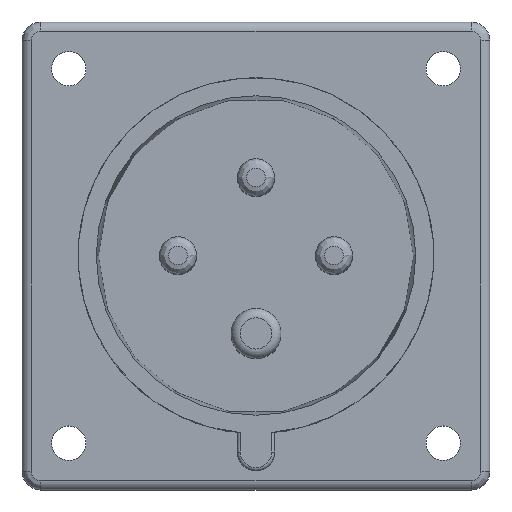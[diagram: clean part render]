
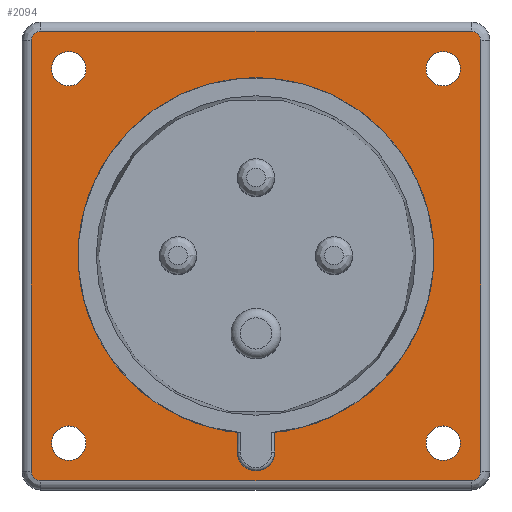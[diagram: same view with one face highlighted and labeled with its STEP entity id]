
A CAD part, top view. The second image highlights one B-rep face of the part: STEP entity #2094.
In plain terms, the highlighted planar face has unit normal (0, 0, 1).
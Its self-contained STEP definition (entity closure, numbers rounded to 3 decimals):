
#2094 = ADVANCED_FACE('',(#2095,#2165,#2185,#2205,#2225,#2245),#2265,.T.
  );
#2095 = FACE_BOUND('',#2096,.T.);
#2096 = EDGE_LOOP('',(#2097,#2107,#2116,#2124,#2133,#2141,#2150,#2158));
#2097 = ORIENTED_EDGE('',*,*,#2098,.T.);
#2098 = EDGE_CURVE('',#2099,#2101,#2103,.T.);
#2099 = VERTEX_POINT('',#2100);
#2100 = CARTESIAN_POINT('',(-36.,34.5,5.));
#2101 = VERTEX_POINT('',#2102);
#2102 = CARTESIAN_POINT('',(-36.,-34.5,5.));
#2103 = LINE('',#2104,#2105);
#2104 = CARTESIAN_POINT('',(-36.,34.5,5.));
#2105 = VECTOR('',#2106,1.);
#2106 = DIRECTION('',(0.,-1.,0.));
#2107 = ORIENTED_EDGE('',*,*,#2108,.T.);
#2108 = EDGE_CURVE('',#2101,#2109,#2111,.T.);
#2109 = VERTEX_POINT('',#2110);
#2110 = CARTESIAN_POINT('',(-34.5,-36.,5.));
#2111 = CIRCLE('',#2112,1.5);
#2112 = AXIS2_PLACEMENT_3D('',#2113,#2114,#2115);
#2113 = CARTESIAN_POINT('',(-34.5,-34.5,5.));
#2114 = DIRECTION('',(0.,0.,1.));
#2115 = DIRECTION('',(-1.,0.,0.));
#2116 = ORIENTED_EDGE('',*,*,#2117,.T.);
#2117 = EDGE_CURVE('',#2109,#2118,#2120,.T.);
#2118 = VERTEX_POINT('',#2119);
#2119 = CARTESIAN_POINT('',(34.5,-36.,5.));
#2120 = LINE('',#2121,#2122);
#2121 = CARTESIAN_POINT('',(-34.5,-36.,5.));
#2122 = VECTOR('',#2123,1.);
#2123 = DIRECTION('',(1.,0.,0.));
#2124 = ORIENTED_EDGE('',*,*,#2125,.T.);
#2125 = EDGE_CURVE('',#2118,#2126,#2128,.T.);
#2126 = VERTEX_POINT('',#2127);
#2127 = CARTESIAN_POINT('',(36.,-34.5,5.));
#2128 = CIRCLE('',#2129,1.5);
#2129 = AXIS2_PLACEMENT_3D('',#2130,#2131,#2132);
#2130 = CARTESIAN_POINT('',(34.5,-34.5,5.));
#2131 = DIRECTION('',(0.,0.,1.));
#2132 = DIRECTION('',(0.,-1.,0.));
#2133 = ORIENTED_EDGE('',*,*,#2134,.T.);
#2134 = EDGE_CURVE('',#2126,#2135,#2137,.T.);
#2135 = VERTEX_POINT('',#2136);
#2136 = CARTESIAN_POINT('',(36.,34.5,5.));
#2137 = LINE('',#2138,#2139);
#2138 = CARTESIAN_POINT('',(36.,-34.5,5.));
#2139 = VECTOR('',#2140,1.);
#2140 = DIRECTION('',(0.,1.,0.));
#2141 = ORIENTED_EDGE('',*,*,#2142,.T.);
#2142 = EDGE_CURVE('',#2135,#2143,#2145,.T.);
#2143 = VERTEX_POINT('',#2144);
#2144 = CARTESIAN_POINT('',(34.5,36.,5.));
#2145 = CIRCLE('',#2146,1.5);
#2146 = AXIS2_PLACEMENT_3D('',#2147,#2148,#2149);
#2147 = CARTESIAN_POINT('',(34.5,34.5,5.));
#2148 = DIRECTION('',(0.,0.,1.));
#2149 = DIRECTION('',(1.,0.,-0.));
#2150 = ORIENTED_EDGE('',*,*,#2151,.T.);
#2151 = EDGE_CURVE('',#2143,#2152,#2154,.T.);
#2152 = VERTEX_POINT('',#2153);
#2153 = CARTESIAN_POINT('',(-34.5,36.,5.));
#2154 = LINE('',#2155,#2156);
#2155 = CARTESIAN_POINT('',(34.5,36.,5.));
#2156 = VECTOR('',#2157,1.);
#2157 = DIRECTION('',(-1.,0.,0.));
#2158 = ORIENTED_EDGE('',*,*,#2159,.T.);
#2159 = EDGE_CURVE('',#2152,#2099,#2160,.T.);
#2160 = CIRCLE('',#2161,1.5);
#2161 = AXIS2_PLACEMENT_3D('',#2162,#2163,#2164);
#2162 = CARTESIAN_POINT('',(-34.5,34.5,5.));
#2163 = DIRECTION('',(0.,-0.,1.));
#2164 = DIRECTION('',(0.,1.,0.));
#2165 = FACE_BOUND('',#2166,.T.);
#2166 = EDGE_LOOP('',(#2167,#2178));
#2167 = ORIENTED_EDGE('',*,*,#2168,.F.);
#2168 = EDGE_CURVE('',#2169,#2171,#2173,.T.);
#2169 = VERTEX_POINT('',#2170);
#2170 = CARTESIAN_POINT('',(27.25,30.,5.));
#2171 = VERTEX_POINT('',#2172);
#2172 = CARTESIAN_POINT('',(32.75,30.,5.));
#2173 = CIRCLE('',#2174,2.75);
#2174 = AXIS2_PLACEMENT_3D('',#2175,#2176,#2177);
#2175 = CARTESIAN_POINT('',(30.,30.,5.));
#2176 = DIRECTION('',(0.,0.,1.));
#2177 = DIRECTION('',(-1.,0.,0.));
#2178 = ORIENTED_EDGE('',*,*,#2179,.F.);
#2179 = EDGE_CURVE('',#2171,#2169,#2180,.T.);
#2180 = CIRCLE('',#2181,2.75);
#2181 = AXIS2_PLACEMENT_3D('',#2182,#2183,#2184);
#2182 = CARTESIAN_POINT('',(30.,30.,5.));
#2183 = DIRECTION('',(0.,0.,1.));
#2184 = DIRECTION('',(1.,0.,-0.));
#2185 = FACE_BOUND('',#2186,.T.);
#2186 = EDGE_LOOP('',(#2187,#2198));
#2187 = ORIENTED_EDGE('',*,*,#2188,.F.);
#2188 = EDGE_CURVE('',#2189,#2191,#2193,.T.);
#2189 = VERTEX_POINT('',#2190);
#2190 = CARTESIAN_POINT('',(-32.75,30.,5.));
#2191 = VERTEX_POINT('',#2192);
#2192 = CARTESIAN_POINT('',(-27.25,30.,5.));
#2193 = CIRCLE('',#2194,2.75);
#2194 = AXIS2_PLACEMENT_3D('',#2195,#2196,#2197);
#2195 = CARTESIAN_POINT('',(-30.,30.,5.));
#2196 = DIRECTION('',(0.,0.,1.));
#2197 = DIRECTION('',(-1.,0.,0.));
#2198 = ORIENTED_EDGE('',*,*,#2199,.F.);
#2199 = EDGE_CURVE('',#2191,#2189,#2200,.T.);
#2200 = CIRCLE('',#2201,2.75);
#2201 = AXIS2_PLACEMENT_3D('',#2202,#2203,#2204);
#2202 = CARTESIAN_POINT('',(-30.,30.,5.));
#2203 = DIRECTION('',(0.,0.,1.));
#2204 = DIRECTION('',(1.,0.,-0.));
#2205 = FACE_BOUND('',#2206,.T.);
#2206 = EDGE_LOOP('',(#2207,#2218));
#2207 = ORIENTED_EDGE('',*,*,#2208,.F.);
#2208 = EDGE_CURVE('',#2209,#2211,#2213,.T.);
#2209 = VERTEX_POINT('',#2210);
#2210 = CARTESIAN_POINT('',(27.25,-30.,5.));
#2211 = VERTEX_POINT('',#2212);
#2212 = CARTESIAN_POINT('',(32.75,-30.,5.));
#2213 = CIRCLE('',#2214,2.75);
#2214 = AXIS2_PLACEMENT_3D('',#2215,#2216,#2217);
#2215 = CARTESIAN_POINT('',(30.,-30.,5.));
#2216 = DIRECTION('',(0.,0.,1.));
#2217 = DIRECTION('',(-1.,0.,0.));
#2218 = ORIENTED_EDGE('',*,*,#2219,.F.);
#2219 = EDGE_CURVE('',#2211,#2209,#2220,.T.);
#2220 = CIRCLE('',#2221,2.75);
#2221 = AXIS2_PLACEMENT_3D('',#2222,#2223,#2224);
#2222 = CARTESIAN_POINT('',(30.,-30.,5.));
#2223 = DIRECTION('',(0.,0.,1.));
#2224 = DIRECTION('',(1.,0.,-0.));
#2225 = FACE_BOUND('',#2226,.T.);
#2226 = EDGE_LOOP('',(#2227,#2238));
#2227 = ORIENTED_EDGE('',*,*,#2228,.F.);
#2228 = EDGE_CURVE('',#2229,#2231,#2233,.T.);
#2229 = VERTEX_POINT('',#2230);
#2230 = CARTESIAN_POINT('',(-32.75,-30.,5.));
#2231 = VERTEX_POINT('',#2232);
#2232 = CARTESIAN_POINT('',(-27.25,-30.,5.));
#2233 = CIRCLE('',#2234,2.75);
#2234 = AXIS2_PLACEMENT_3D('',#2235,#2236,#2237);
#2235 = CARTESIAN_POINT('',(-30.,-30.,5.));
#2236 = DIRECTION('',(0.,0.,1.));
#2237 = DIRECTION('',(-1.,0.,0.));
#2238 = ORIENTED_EDGE('',*,*,#2239,.F.);
#2239 = EDGE_CURVE('',#2231,#2229,#2240,.T.);
#2240 = CIRCLE('',#2241,2.75);
#2241 = AXIS2_PLACEMENT_3D('',#2242,#2243,#2244);
#2242 = CARTESIAN_POINT('',(-30.,-30.,5.));
#2243 = DIRECTION('',(0.,0.,1.));
#2244 = DIRECTION('',(1.,0.,-0.));
#2245 = FACE_BOUND('',#2246,.T.);
#2246 = EDGE_LOOP('',(#2247,#2258));
#2247 = ORIENTED_EDGE('',*,*,#2248,.F.);
#2248 = EDGE_CURVE('',#2249,#2251,#2253,.T.);
#2249 = VERTEX_POINT('',#2250);
#2250 = CARTESIAN_POINT('',(-28.5,0.,5.));
#2251 = VERTEX_POINT('',#2252);
#2252 = CARTESIAN_POINT('',(28.5,0.,5.));
#2253 = CIRCLE('',#2254,28.5);
#2254 = AXIS2_PLACEMENT_3D('',#2255,#2256,#2257);
#2255 = CARTESIAN_POINT('',(0.,0.,5.));
#2256 = DIRECTION('',(0.,0.,1.));
#2257 = DIRECTION('',(-1.,0.,0.));
#2258 = ORIENTED_EDGE('',*,*,#2259,.F.);
#2259 = EDGE_CURVE('',#2251,#2249,#2260,.T.);
#2260 = CIRCLE('',#2261,28.5);
#2261 = AXIS2_PLACEMENT_3D('',#2262,#2263,#2264);
#2262 = CARTESIAN_POINT('',(0.,0.,5.));
#2263 = DIRECTION('',(0.,0.,1.));
#2264 = DIRECTION('',(1.,0.,-0.));
#2265 = PLANE('',#2266);
#2266 = AXIS2_PLACEMENT_3D('',#2267,#2268,#2269);
#2267 = CARTESIAN_POINT('',(0.,0.,5.));
#2268 = DIRECTION('',(0.,0.,1.));
#2269 = DIRECTION('',(-1.,0.,0.));
